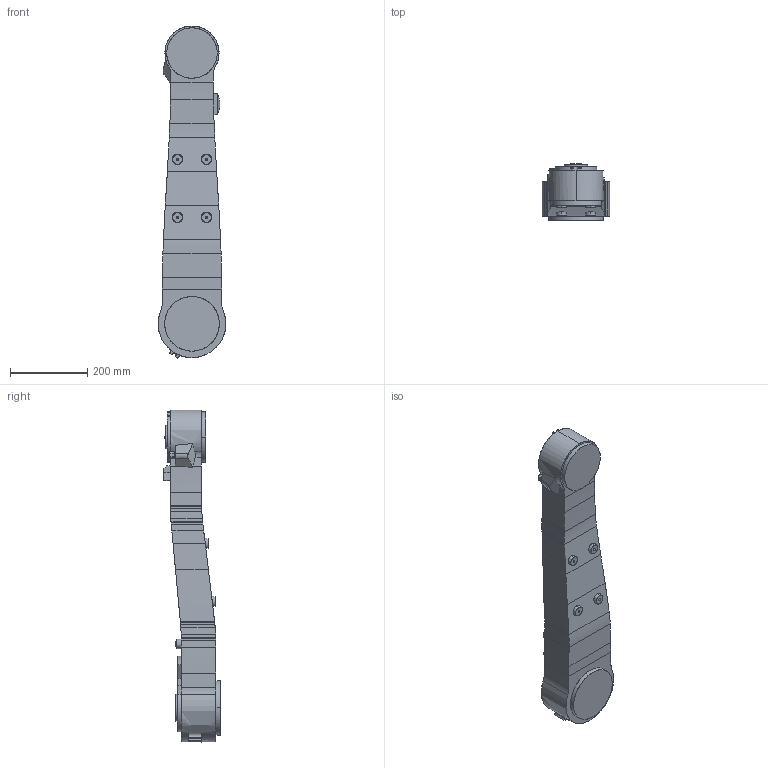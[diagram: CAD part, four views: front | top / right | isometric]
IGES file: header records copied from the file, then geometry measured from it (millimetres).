
Start section: SolidWorks IGES file using analytic representation for surfaces
Global section: file name: C:\Users\CNYUGAO6\Desktop\web model\IRB1660ID_4-155_IRC5_rev0_LINK2.IGS; native system: SolidWorks 2014; preprocessor: SolidWorks 2014; author: CNYUGAO6; date: 160905.132250; units: millimetre
Bounding box: 174.79 x 146 x 858.26 mm (x, y, z)
Surface area: 422574.1 mm2 (no closed solid volume)
Topology: 0 solids, 0 shells, 237 faces, 2973 edges, 2965 vertices
Faces by surface type: bspline 191, revolution 46
